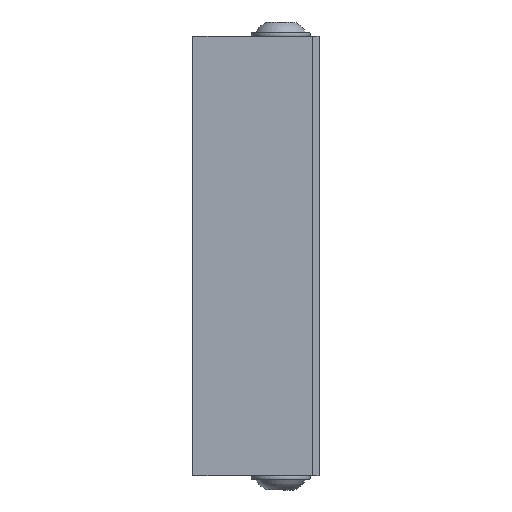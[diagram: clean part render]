
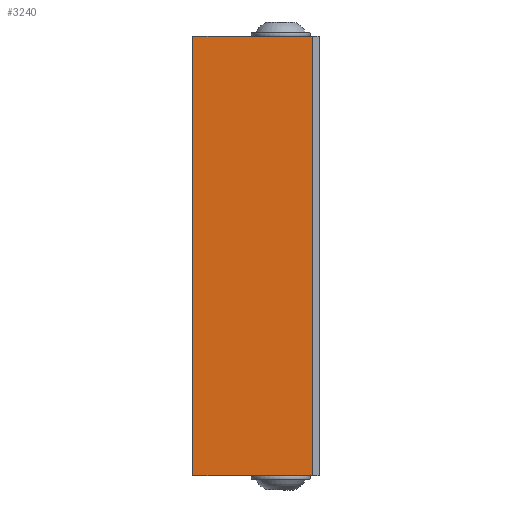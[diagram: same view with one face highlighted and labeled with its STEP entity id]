
A CAD part, left-side view. The second image highlights one B-rep face of the part: STEP entity #3240.
In plain terms, the highlighted planar face has unit normal (-1, 0, 0).
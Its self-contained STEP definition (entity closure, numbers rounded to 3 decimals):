
#116 = VECTOR ( 'NONE', #348, 1000. ) ;
#304 = EDGE_CURVE ( 'NONE', #2629, #2686, #2624, .T. ) ;
#348 = DIRECTION ( 'NONE',  ( 0., -1., 0. ) ) ;
#396 = EDGE_LOOP ( 'NONE', ( #3817, #2580, #1540, #2026 ) ) ;
#416 = DIRECTION ( 'NONE',  ( 0., 0., 1. ) ) ;
#432 = EDGE_CURVE ( 'NONE', #2629, #3228, #1657, .T. ) ;
#933 = CARTESIAN_POINT ( 'NONE',  ( -17.5, 7.5, 51.384 ) ) ;
#1030 = LINE ( 'NONE', #3578, #4109 ) ;
#1204 = DIRECTION ( 'NONE',  ( 1., 0., 0. ) ) ;
#1272 = VECTOR ( 'NONE', #2895, 1000. ) ;
#1481 = PLANE ( 'NONE',  #1632 ) ;
#1540 = ORIENTED_EDGE ( 'NONE', *, *, #432, .F. ) ;
#1612 = CARTESIAN_POINT ( 'NONE',  ( -17.5, 7.5, 0. ) ) ;
#1632 = AXIS2_PLACEMENT_3D ( 'NONE', #933, #1204, #2167 ) ;
#1657 = LINE ( 'NONE', #3230, #116 ) ;
#1958 = CARTESIAN_POINT ( 'NONE',  ( -17.5, 7.5, 51.384 ) ) ;
#1969 = LINE ( 'NONE', #3863, #3838 ) ;
#2026 = ORIENTED_EDGE ( 'NONE', *, *, #304, .T. ) ;
#2167 = DIRECTION ( 'NONE',  ( 0., 0., -1. ) ) ;
#2534 = FACE_OUTER_BOUND ( 'NONE', #396, .T. ) ;
#2580 = ORIENTED_EDGE ( 'NONE', *, *, #3029, .T. ) ;
#2624 = LINE ( 'NONE', #3549, #1272 ) ;
#2629 = VERTEX_POINT ( 'NONE', #1958 ) ;
#2647 = DIRECTION ( 'NONE',  ( 0., -1., 0. ) ) ;
#2686 = VERTEX_POINT ( 'NONE', #1612 ) ;
#2895 = DIRECTION ( 'NONE',  ( 0., 0., -1. ) ) ;
#3029 = EDGE_CURVE ( 'NONE', #4151, #3228, #1030, .T. ) ;
#3126 = CARTESIAN_POINT ( 'NONE',  ( -17.5, -6.5, 51.384 ) ) ;
#3228 = VERTEX_POINT ( 'NONE', #3126 ) ;
#3230 = CARTESIAN_POINT ( 'NONE',  ( -17.5, 7.5, 51.384 ) ) ;
#3240 = ADVANCED_FACE ( 'NONE', ( #2534 ), #1481, .F. ) ;
#3244 = CARTESIAN_POINT ( 'NONE',  ( -17.5, -6.5, 0. ) ) ;
#3546 = EDGE_CURVE ( 'NONE', #2686, #4151, #1969, .T. ) ;
#3549 = CARTESIAN_POINT ( 'NONE',  ( -17.5, 7.5, 51.384 ) ) ;
#3578 = CARTESIAN_POINT ( 'NONE',  ( -17.5, -6.5, 51.384 ) ) ;
#3817 = ORIENTED_EDGE ( 'NONE', *, *, #3546, .T. ) ;
#3838 = VECTOR ( 'NONE', #2647, 1000. ) ;
#3863 = CARTESIAN_POINT ( 'NONE',  ( -17.5, 7.5, 0. ) ) ;
#4109 = VECTOR ( 'NONE', #416, 1000. ) ;
#4151 = VERTEX_POINT ( 'NONE', #3244 ) ;
